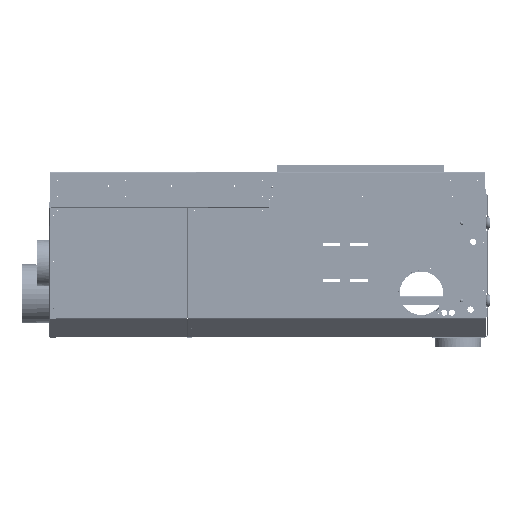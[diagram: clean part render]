
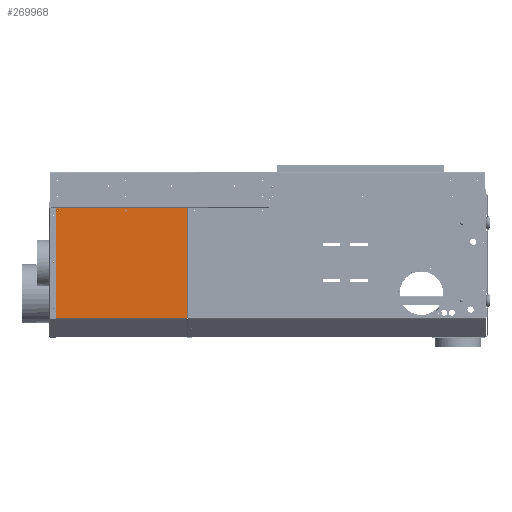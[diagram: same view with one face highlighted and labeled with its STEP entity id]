
A CAD part, left-side view. The second image highlights one B-rep face of the part: STEP entity #269968.
In plain terms, the highlighted planar face has unit normal (-1, 0, 0).
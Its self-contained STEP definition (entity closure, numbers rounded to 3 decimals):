
#826 = DIRECTION ( 'NONE',  ( 0., 0., -1. ) ) ;
#3172 = VERTEX_POINT ( 'NONE', #29450 ) ;
#6397 = ORIENTED_EDGE ( 'NONE', *, *, #30289, .T. ) ;
#6757 = CARTESIAN_POINT ( 'NONE',  ( -373.5, 983.5, 118. ) ) ;
#16040 = FACE_BOUND ( 'NONE', #345443, .T. ) ;
#20351 = DIRECTION ( 'NONE',  ( 0., 0., -1. ) ) ;
#21543 = EDGE_CURVE ( 'NONE', #237011, #53756, #154262, .T. ) ;
#23454 = EDGE_CURVE ( 'NONE', #354561, #282937, #136739, .T. ) ;
#27815 = CIRCLE ( 'NONE', #319648, 2.25 ) ;
#28381 = EDGE_CURVE ( 'NONE', #53756, #3172, #370449, .T. ) ;
#29450 = CARTESIAN_POINT ( 'NONE',  ( -373.5, 544., -236.172 ) ) ;
#30289 = EDGE_CURVE ( 'NONE', #175665, #224583, #27815, .T. ) ;
#31181 = CARTESIAN_POINT ( 'NONE',  ( -373.5, 983.5, -236.172 ) ) ;
#32347 = CIRCLE ( 'NONE', #198863, 1.6 ) ;
#32757 = EDGE_CURVE ( 'NONE', #251247, #200996, #73356, .T. ) ;
#52507 = EDGE_CURVE ( 'NONE', #200996, #251247, #258971, .T. ) ;
#53756 = VERTEX_POINT ( 'NONE', #335756 ) ;
#61486 = EDGE_CURVE ( 'NONE', #332393, #290950, #81108, .T. ) ;
#62920 = EDGE_LOOP ( 'NONE', ( #6397, #183479 ) ) ;
#63074 = AXIS2_PLACEMENT_3D ( 'NONE', #164878, #75238, #367132 ) ;
#67863 = CARTESIAN_POINT ( 'NONE',  ( -373.5, 973.5, 96.6 ) ) ;
#73080 = DIRECTION ( 'NONE',  ( 1., 0., 0. ) ) ;
#73356 = CIRCLE ( 'NONE', #205504, 1.6 ) ;
#75238 = DIRECTION ( 'NONE',  ( 1., 0., 0. ) ) ;
#81108 = CIRCLE ( 'NONE', #63074, 1.6 ) ;
#81862 = EDGE_CURVE ( 'NONE', #302863, #3172, #236697, .T. ) ;
#82892 = AXIS2_PLACEMENT_3D ( 'NONE', #334502, #333237, #275313 ) ;
#83860 = CARTESIAN_POINT ( 'NONE',  ( -373.5, 983.5, 118. ) ) ;
#86177 = CARTESIAN_POINT ( 'NONE',  ( -373.5, 960., 111.75 ) ) ;
#86634 = CARTESIAN_POINT ( 'NONE',  ( -373.5, 973.5, -53.4 ) ) ;
#87843 = DIRECTION ( 'NONE',  ( -1., 0., 0. ) ) ;
#88223 = DIRECTION ( 'NONE',  ( 0., 0., -1. ) ) ;
#91431 = CARTESIAN_POINT ( 'NONE',  ( -373.5, 960., 109.5 ) ) ;
#92293 = AXIS2_PLACEMENT_3D ( 'NONE', #98387, #194152, #135038 ) ;
#92726 = AXIS2_PLACEMENT_3D ( 'NONE', #269017, #243498, #211953 ) ;
#94099 = VECTOR ( 'NONE', #200478, 1000. ) ;
#96890 = AXIS2_PLACEMENT_3D ( 'NONE', #131841, #102599, #20351 ) ;
#97396 = FACE_BOUND ( 'NONE', #117235, .T. ) ;
#98332 = DIRECTION ( 'NONE',  ( 1., 0., 0. ) ) ;
#98387 = CARTESIAN_POINT ( 'NONE',  ( -373.5, 740., 109.5 ) ) ;
#102599 = DIRECTION ( 'NONE',  ( 1., 0., 0. ) ) ;
#113805 = DIRECTION ( 'NONE',  ( 0., 0., -1. ) ) ;
#114707 = CARTESIAN_POINT ( 'NONE',  ( -373.5, 973.5, -205. ) ) ;
#117235 = EDGE_LOOP ( 'NONE', ( #273603, #166518 ) ) ;
#120233 = FACE_OUTER_BOUND ( 'NONE', #139088, .T. ) ;
#131841 = CARTESIAN_POINT ( 'NONE',  ( -373.5, 973.5, 95. ) ) ;
#133782 = FACE_BOUND ( 'NONE', #182702, .T. ) ;
#135038 = DIRECTION ( 'NONE',  ( 0., 0., -1. ) ) ;
#136739 = CIRCLE ( 'NONE', #367589, 1.6 ) ;
#136829 = CIRCLE ( 'NONE', #82892, 2.25 ) ;
#138409 = LINE ( 'NONE', #287120, #206055 ) ;
#139088 = EDGE_LOOP ( 'NONE', ( #154988, #311970, #274245, #299050 ) ) ;
#143447 = AXIS2_PLACEMENT_3D ( 'NONE', #6757, #87843, #319106 ) ;
#143937 = DIRECTION ( 'NONE',  ( 1., 0., 0. ) ) ;
#147142 = DIRECTION ( 'NONE',  ( 1., 0., 0. ) ) ;
#147307 = PLANE ( 'NONE',  #143447 ) ;
#149508 = ORIENTED_EDGE ( 'NONE', *, *, #52507, .T. ) ;
#153420 = EDGE_LOOP ( 'NONE', ( #170941, #208384 ) ) ;
#154262 = LINE ( 'NONE', #331460, #312247 ) ;
#154988 = ORIENTED_EDGE ( 'NONE', *, *, #28381, .F. ) ;
#160810 = DIRECTION ( 'NONE',  ( 0., -1., 0. ) ) ;
#163958 = CARTESIAN_POINT ( 'NONE',  ( -373.5, 973.5, -55. ) ) ;
#164878 = CARTESIAN_POINT ( 'NONE',  ( -373.5, 973.5, -205. ) ) ;
#166518 = ORIENTED_EDGE ( 'NONE', *, *, #61486, .T. ) ;
#170941 = ORIENTED_EDGE ( 'NONE', *, *, #23454, .T. ) ;
#174073 = DIRECTION ( 'NONE',  ( 1., 0., 0. ) ) ;
#175665 = VERTEX_POINT ( 'NONE', #270567 ) ;
#181051 = ORIENTED_EDGE ( 'NONE', *, *, #334316, .T. ) ;
#182702 = EDGE_LOOP ( 'NONE', ( #360592, #181051 ) ) ;
#183250 = FACE_BOUND ( 'NONE', #62920, .T. ) ;
#183382 = CIRCLE ( 'NONE', #92726, 2.25 ) ;
#183479 = ORIENTED_EDGE ( 'NONE', *, *, #237846, .T. ) ;
#194152 = DIRECTION ( 'NONE',  ( 1., 0., 0. ) ) ;
#198863 = AXIS2_PLACEMENT_3D ( 'NONE', #114707, #143937, #88223 ) ;
#200478 = DIRECTION ( 'NONE',  ( 0., 0., -1. ) ) ;
#200996 = VERTEX_POINT ( 'NONE', #238260 ) ;
#205504 = AXIS2_PLACEMENT_3D ( 'NONE', #357521, #98332, #304281 ) ;
#206055 = VECTOR ( 'NONE', #113805, 1000. ) ;
#208384 = ORIENTED_EDGE ( 'NONE', *, *, #245314, .T. ) ;
#208669 = EDGE_CURVE ( 'NONE', #242117, #287867, #256759, .T. ) ;
#210511 = FACE_BOUND ( 'NONE', #153420, .T. ) ;
#211953 = DIRECTION ( 'NONE',  ( 0., 0., -1. ) ) ;
#213761 = CARTESIAN_POINT ( 'NONE',  ( -373.5, 973.5, -56.6 ) ) ;
#224583 = VERTEX_POINT ( 'NONE', #86177 ) ;
#227157 = CARTESIAN_POINT ( 'NONE',  ( -373.5, 544., 118. ) ) ;
#236697 = LINE ( 'NONE', #283262, #322602 ) ;
#237011 = VERTEX_POINT ( 'NONE', #83860 ) ;
#237632 = EDGE_CURVE ( 'NONE', #290950, #332393, #32347, .T. ) ;
#237846 = EDGE_CURVE ( 'NONE', #224583, #175665, #183382, .T. ) ;
#238260 = CARTESIAN_POINT ( 'NONE',  ( -373.5, 973.5, 93.4 ) ) ;
#239871 = ORIENTED_EDGE ( 'NONE', *, *, #32757, .T. ) ;
#242117 = VERTEX_POINT ( 'NONE', #338595 ) ;
#243498 = DIRECTION ( 'NONE',  ( 1., 0., 0. ) ) ;
#245314 = EDGE_CURVE ( 'NONE', #282937, #354561, #332740, .T. ) ;
#248301 = EDGE_CURVE ( 'NONE', #237011, #302863, #138409, .T. ) ;
#249967 = DIRECTION ( 'NONE',  ( 0., 0., -1. ) ) ;
#251247 = VERTEX_POINT ( 'NONE', #67863 ) ;
#255565 = CARTESIAN_POINT ( 'NONE',  ( -373.5, 973.5, -206.6 ) ) ;
#256759 = CIRCLE ( 'NONE', #92293, 2.25 ) ;
#258971 = CIRCLE ( 'NONE', #96890, 1.6 ) ;
#263034 = CARTESIAN_POINT ( 'NONE',  ( -373.5, 973.5, -203.4 ) ) ;
#269017 = CARTESIAN_POINT ( 'NONE',  ( -373.5, 960., 109.5 ) ) ;
#269968 = ADVANCED_FACE ( 'NONE', ( #133782, #183250, #210511, #97396, #16040, #120233 ), #147307, .T. ) ;
#270567 = CARTESIAN_POINT ( 'NONE',  ( -373.5, 960., 107.25 ) ) ;
#273603 = ORIENTED_EDGE ( 'NONE', *, *, #237632, .T. ) ;
#274245 = ORIENTED_EDGE ( 'NONE', *, *, #248301, .T. ) ;
#275313 = DIRECTION ( 'NONE',  ( 0., 0., -1. ) ) ;
#282937 = VERTEX_POINT ( 'NONE', #86634 ) ;
#283262 = CARTESIAN_POINT ( 'NONE',  ( -373.5, 983.5, -236.172 ) ) ;
#287120 = CARTESIAN_POINT ( 'NONE',  ( -373.5, 983.5, 118. ) ) ;
#287867 = VERTEX_POINT ( 'NONE', #327211 ) ;
#290950 = VERTEX_POINT ( 'NONE', #255565 ) ;
#294880 = DIRECTION ( 'NONE',  ( 0., 0., -1. ) ) ;
#299050 = ORIENTED_EDGE ( 'NONE', *, *, #81862, .T. ) ;
#302863 = VERTEX_POINT ( 'NONE', #31181 ) ;
#304281 = DIRECTION ( 'NONE',  ( 0., 0., -1. ) ) ;
#311970 = ORIENTED_EDGE ( 'NONE', *, *, #21543, .F. ) ;
#312181 = DIRECTION ( 'NONE',  ( 0., -1., 0. ) ) ;
#312247 = VECTOR ( 'NONE', #160810, 1000. ) ;
#319106 = DIRECTION ( 'NONE',  ( 0., 0., 1. ) ) ;
#319648 = AXIS2_PLACEMENT_3D ( 'NONE', #91431, #147142, #294880 ) ;
#322602 = VECTOR ( 'NONE', #312181, 1000. ) ;
#324071 = AXIS2_PLACEMENT_3D ( 'NONE', #163958, #73080, #249967 ) ;
#327211 = CARTESIAN_POINT ( 'NONE',  ( -373.5, 740., 111.75 ) ) ;
#331460 = CARTESIAN_POINT ( 'NONE',  ( -373.5, 983.5, 118. ) ) ;
#332393 = VERTEX_POINT ( 'NONE', #263034 ) ;
#332740 = CIRCLE ( 'NONE', #324071, 1.6 ) ;
#333237 = DIRECTION ( 'NONE',  ( 1., 0., 0. ) ) ;
#334316 = EDGE_CURVE ( 'NONE', #287867, #242117, #136829, .T. ) ;
#334502 = CARTESIAN_POINT ( 'NONE',  ( -373.5, 740., 109.5 ) ) ;
#335756 = CARTESIAN_POINT ( 'NONE',  ( -373.5, 544., 118. ) ) ;
#338595 = CARTESIAN_POINT ( 'NONE',  ( -373.5, 740., 107.25 ) ) ;
#345443 = EDGE_LOOP ( 'NONE', ( #149508, #239871 ) ) ;
#347301 = CARTESIAN_POINT ( 'NONE',  ( -373.5, 973.5, -55. ) ) ;
#354561 = VERTEX_POINT ( 'NONE', #213761 ) ;
#357521 = CARTESIAN_POINT ( 'NONE',  ( -373.5, 973.5, 95. ) ) ;
#360592 = ORIENTED_EDGE ( 'NONE', *, *, #208669, .T. ) ;
#367132 = DIRECTION ( 'NONE',  ( 0., 0., -1. ) ) ;
#367589 = AXIS2_PLACEMENT_3D ( 'NONE', #347301, #174073, #826 ) ;
#370449 = LINE ( 'NONE', #227157, #94099 ) ;
